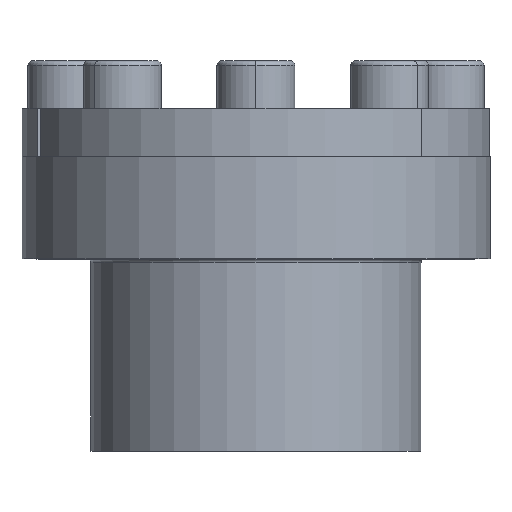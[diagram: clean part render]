
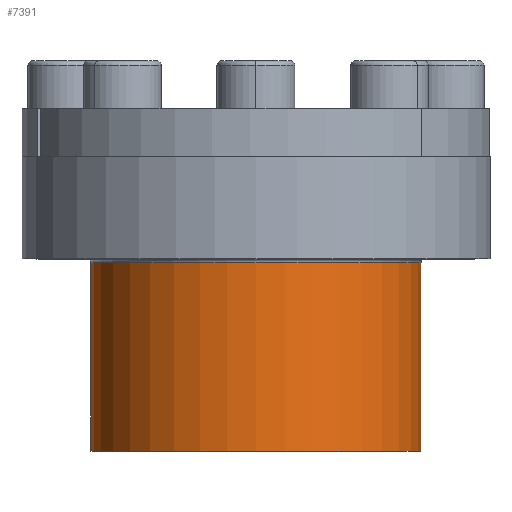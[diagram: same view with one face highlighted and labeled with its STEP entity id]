
A CAD part, front view. The second image highlights one B-rep face of the part: STEP entity #7391.
In plain terms, the highlighted cylindrical face has radius 27.5 mm (diameter 55 mm), a partial arc.
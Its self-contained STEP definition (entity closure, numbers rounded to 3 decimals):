
#1126 = VECTOR ( 'NONE', #9578, 1000. ) ;
#1376 = CARTESIAN_POINT ( 'NONE',  ( 27.5, 0., -11. ) ) ;
#1672 = LINE ( 'NONE', #1376, #9893 ) ;
#2002 = EDGE_CURVE ( 'NONE', #4604, #5560, #2420, .T. ) ;
#2420 = CIRCLE ( 'NONE', #3682, 27.5 ) ;
#2503 = AXIS2_PLACEMENT_3D ( 'NONE', #11406, #9188, #10372 ) ;
#2550 = EDGE_CURVE ( 'NONE', #3472, #4604, #12572, .T. ) ;
#3273 = DIRECTION ( 'NONE',  ( 0., 0., -1. ) ) ;
#3292 = ORIENTED_EDGE ( 'NONE', *, *, #6142, .T. ) ;
#3472 = VERTEX_POINT ( 'NONE', #4389 ) ;
#3682 = AXIS2_PLACEMENT_3D ( 'NONE', #10100, #3699, #11183 ) ;
#3699 = DIRECTION ( 'NONE',  ( 0., 0., 1. ) ) ;
#4169 = CARTESIAN_POINT ( 'NONE',  ( -27.5, 0., -11. ) ) ;
#4272 = ORIENTED_EDGE ( 'NONE', *, *, #2550, .T. ) ;
#4389 = CARTESIAN_POINT ( 'NONE',  ( -27.5, 0., -11.6 ) ) ;
#4602 = CARTESIAN_POINT ( 'NONE',  ( 27.5, 0., -11.6 ) ) ;
#4604 = VERTEX_POINT ( 'NONE', #6052 ) ;
#5560 = VERTEX_POINT ( 'NONE', #13843 ) ;
#6052 = CARTESIAN_POINT ( 'NONE',  ( -27.5, 0., -43. ) ) ;
#6142 = EDGE_CURVE ( 'NONE', #12158, #3472, #11587, .T. ) ;
#6402 = AXIS2_PLACEMENT_3D ( 'NONE', #9698, #3273, #10767 ) ;
#7391 = ADVANCED_FACE ( 'NONE', ( #7818 ), #9336, .T. ) ;
#7618 = ORIENTED_EDGE ( 'NONE', *, *, #13960, .F. ) ;
#7818 = FACE_OUTER_BOUND ( 'NONE', #12527, .T. ) ;
#8884 = DIRECTION ( 'NONE',  ( 0., 0., -1. ) ) ;
#9188 = DIRECTION ( 'NONE',  ( 0., 0., -1. ) ) ;
#9336 = CYLINDRICAL_SURFACE ( 'NONE', #2503, 27.5 ) ;
#9578 = DIRECTION ( 'NONE',  ( 0., 0., -1. ) ) ;
#9698 = CARTESIAN_POINT ( 'NONE',  ( 0., 0., -11.6 ) ) ;
#9893 = VECTOR ( 'NONE', #8884, 1000. ) ;
#10100 = CARTESIAN_POINT ( 'NONE',  ( 0., 0., -43. ) ) ;
#10372 = DIRECTION ( 'NONE',  ( -1., 0., 0. ) ) ;
#10767 = DIRECTION ( 'NONE',  ( -1., 0., 0. ) ) ;
#11183 = DIRECTION ( 'NONE',  ( -1., 0., 0. ) ) ;
#11338 = ORIENTED_EDGE ( 'NONE', *, *, #2002, .T. ) ;
#11406 = CARTESIAN_POINT ( 'NONE',  ( 0., 0., -11. ) ) ;
#11587 = CIRCLE ( 'NONE', #6402, 27.5 ) ;
#12158 = VERTEX_POINT ( 'NONE', #4602 ) ;
#12527 = EDGE_LOOP ( 'NONE', ( #7618, #3292, #4272, #11338 ) ) ;
#12572 = LINE ( 'NONE', #4169, #1126 ) ;
#13843 = CARTESIAN_POINT ( 'NONE',  ( 27.5, 0., -43. ) ) ;
#13960 = EDGE_CURVE ( 'NONE', #12158, #5560, #1672, .T. ) ;
